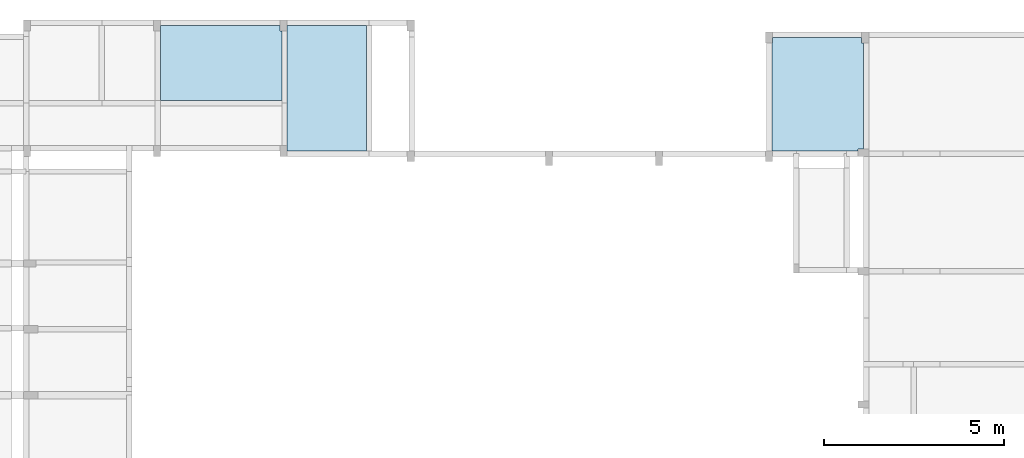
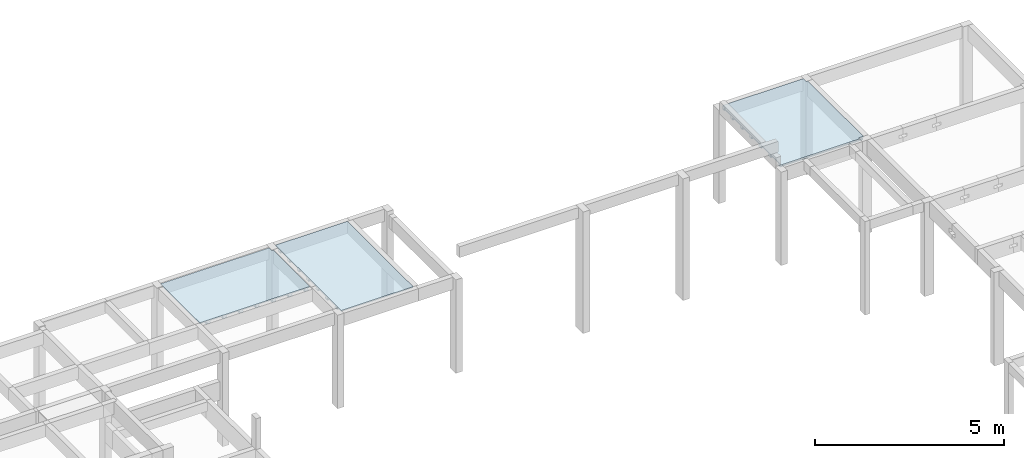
# One storey, part 18 of 21: 3 slabs.
"""IFC4 building model written with IfcOpenShell, lengths in centimetres."""

from ifc_helpers import new_model, si_unit, derived_unit, frame, origin_with_axes, place, context, project, spatial, polyline, outline, extrude, faceted_brep, material, element, save


model = new_model("IFC4")

# Units and contexts
model_context = context("Model", 3, precision=1e-05, world=origin_with_axes(), identifier="Body")
ifc_project = project(units=[si_unit("LENGTHUNIT", "METRE", prefix="CENTI"), si_unit("VOLUMEUNIT", "CUBIC_METRE"), si_unit("AREAUNIT", "SQUARE_METRE"), si_unit("POWERUNIT", "WATT"), si_unit("LUMINOUSFLUXUNIT", "LUMEN"), si_unit("ELECTRICCURRENTUNIT", "AMPERE"), si_unit("PRESSUREUNIT", "PASCAL", prefix="KILO"), si_unit("MASSUNIT", "GRAM", prefix="KILO"), si_unit("PLANEANGLEUNIT", "RADIAN"), derived_unit("VOLUMETRICFLOWRATEUNIT", [(si_unit("LENGTHUNIT", "METRE"), 3), (si_unit("TIMEUNIT", "SECOND"), -1)])], contexts=[model_context])

# Site, building, storey
site_placement = place(None, origin_with_axes())
site = spatial("IfcSite", under=ifc_project, at=site_placement)
building_placement = place(site_placement, frame((0.0, 0.0, -295.0)))
building = spatial("IfcBuilding", under=site, at=building_placement)
placement_1 = place(building_placement, origin_with_axes())
placement_2 = place(placement_1, frame((0.0, 0.0, 101.0), z_axis=(0.0, 0.0, 1.0), x_axis=(1.0, 0.0, 0.0)))
placement_3 = place(placement_2, frame((0.0, 0.0, 204.0), z_axis=(0.0, 0.0, 1.0), x_axis=(1.0, 0.0, 0.0)))
placement_4 = place(placement_3, frame((0.0, 0.0, 292.0), z_axis=(0.0, 0.0, 1.0), x_axis=(1.0, 0.0, 0.0)))
storey_placement = place(placement_4, frame((0.0, 0.0, 302.0), z_axis=(0.0, 0.0, 1.0), x_axis=(1.0, 0.0, 0.0)))
storey = spatial("IfcBuildingStorey", under=building, at=storey_placement, Name="PAVTO 02", CompositionType="ELEMENT", Elevation=604.0)

# Slabs
ifc_material = material(Name="Concreto")
slab_1_placement = place(storey_placement, frame((1722.6245, -5190.2945, -2.0), z_axis=(0.0, 0.0, 1.0), x_axis=(1.0, 0.0, 0.0)))
element("IfcSlab", 1, at=slab_1_placement, inside=storey, material=ifc_material, Name="L205", PredefinedType="FLOOR", context=model_context, shape_type="SolidModel", body=[
    extrude(outline(polyline([(168.224, 89.185), (163.224, 89.185), (163.225, 104.044), (-168.225, 104.045), (-168.224, -104.044), (168.224, -104.044), (168.224, 89.185), (168.224, 89.185)])), frame((0.0005, -0.0005, -4.0), z_axis=(0.0, 0.0, 1.0), x_axis=(1.0, 0.0, 0.0)), (0.0, 0.0, 1.0), 4.0),
    faceted_brep([(153.2255, -104.0445, -12.0), (153.2255, 104.044, -12.0), (163.2255, 104.044, -12.0), (163.2255, -104.0445, -12.0), (163.2255, -104.0445, -4.0), (163.2255, 104.044, -4.0), (153.2255, 104.044, -4.0), (153.2255, -104.0445, -4.0)], [[[0, 1, 2, 3]], [[4, 5, 6, 7]], [[4, 3, 5]], [[3, 2, 5]], [[5, 2, 6]], [[2, 1, 6]], [[6, 1, 7]], [[1, 0, 7]], [[7, 0, 4]], [[0, 3, 4]]]),
    faceted_brep([(151.7255, -104.0445, -12.0), (151.7255, 104.044, -12.0), (153.2255, 104.044, -12.0), (153.2255, -104.0445, -12.0), (153.2255, -104.0445, -9.0), (153.2255, 104.044, -9.0), (151.7255, 104.044, -9.0), (151.7255, -104.0445, -9.0)], [[[0, 1, 2, 3]], [[4, 5, 6, 7]], [[4, 3, 5]], [[3, 2, 5]], [[5, 2, 6]], [[2, 1, 6]], [[6, 1, 7]], [[1, 0, 7]], [[7, 0, 4]], [[0, 3, 4]]]),
    faceted_brep([(163.2255, -104.0445, -12.0), (163.2255, 104.044, -12.0), (164.7255, 89.1845, -12.0), (164.7255, -104.0445, -12.0), (164.7255, -104.0445, -9.0), (164.7255, 89.1845, -9.0), (163.2255, 104.044, -9.0), (163.2255, -104.0445, -9.0)], [[[0, 1, 2, 3]], [[4, 5, 6, 7]], [[4, 3, 5]], [[3, 2, 5]], [[5, 2, 6]], [[2, 1, 6]], [[6, 1, 7]], [[1, 0, 7]], [[7, 0, 4]], [[0, 3, 4]]]),
    faceted_brep([(103.2255, -104.0445, -12.0), (103.2255, 104.044, -12.0), (113.2255, 104.044, -12.0), (113.2255, -104.0445, -12.0), (113.2255, -104.0445, -4.0), (113.2255, 104.044, -4.0), (103.2255, 104.044, -4.0), (103.2255, -104.0445, -4.0)], [[[0, 1, 2, 3]], [[4, 5, 6, 7]], [[4, 3, 5]], [[3, 2, 5]], [[5, 2, 6]], [[2, 1, 6]], [[6, 1, 7]], [[1, 0, 7]], [[7, 0, 4]], [[0, 3, 4]]]),
    faceted_brep([(101.7255, -104.0445, -12.0), (101.7255, 104.044, -12.0), (103.2255, 104.044, -12.0), (103.2255, -104.0445, -12.0), (103.2255, -104.0445, -9.0), (103.2255, 104.044, -9.0), (101.7255, 104.044, -9.0), (101.7255, -104.0445, -9.0)], [[[0, 1, 2, 3]], [[4, 5, 6, 7]], [[4, 3, 5]], [[3, 2, 5]], [[5, 2, 6]], [[2, 1, 6]], [[6, 1, 7]], [[1, 0, 7]], [[7, 0, 4]], [[0, 3, 4]]]),
    faceted_brep([(113.2255, -104.0445, -12.0), (113.2255, 104.044, -12.0), (114.7255, 104.044, -12.0), (114.7255, -104.0445, -12.0), (114.7255, -104.0445, -9.0), (114.7255, 104.044, -9.0), (113.2255, 104.044, -9.0), (113.2255, -104.0445, -9.0)], [[[0, 1, 2, 3]], [[4, 5, 6, 7]], [[4, 3, 5]], [[3, 2, 5]], [[5, 2, 6]], [[2, 1, 6]], [[6, 1, 7]], [[1, 0, 7]], [[7, 0, 4]], [[0, 3, 4]]]),
    faceted_brep([(53.2255, -104.0445, -12.0), (53.2255, 104.044, -12.0), (63.2255, 104.044, -12.0), (63.2255, -104.0445, -12.0), (63.2255, -104.0445, -4.0), (63.2255, 104.044, -4.0), (53.2255, 104.044, -4.0), (53.2255, -104.0445, -4.0)], [[[0, 1, 2, 3]], [[4, 5, 6, 7]], [[4, 3, 5]], [[3, 2, 5]], [[5, 2, 6]], [[2, 1, 6]], [[6, 1, 7]], [[1, 0, 7]], [[7, 0, 4]], [[0, 3, 4]]]),
    faceted_brep([(51.7255, -104.0445, -12.0), (51.7255, 104.044, -12.0), (53.2255, 104.044, -12.0), (53.2255, -104.0445, -12.0), (53.2255, -104.0445, -9.0), (53.2255, 104.044, -9.0), (51.7255, 104.044, -9.0), (51.7255, -104.0445, -9.0)], [[[0, 1, 2, 3]], [[4, 5, 6, 7]], [[4, 3, 5]], [[3, 2, 5]], [[5, 2, 6]], [[2, 1, 6]], [[6, 1, 7]], [[1, 0, 7]], [[7, 0, 4]], [[0, 3, 4]]]),
    faceted_brep([(63.2255, -104.0445, -12.0), (63.2255, 104.044, -12.0), (64.7255, 104.044, -12.0), (64.7255, -104.0445, -12.0), (64.7255, -104.0445, -9.0), (64.7255, 104.044, -9.0), (63.2255, 104.044, -9.0), (63.2255, -104.0445, -9.0)], [[[0, 1, 2, 3]], [[4, 5, 6, 7]], [[4, 3, 5]], [[3, 2, 5]], [[5, 2, 6]], [[2, 1, 6]], [[6, 1, 7]], [[1, 0, 7]], [[7, 0, 4]], [[0, 3, 4]]]),
    faceted_brep([(3.2255, -104.0445, -12.0), (3.2255, 104.044, -12.0), (13.2255, 104.044, -12.0), (13.2255, -104.0445, -12.0), (13.2255, -104.0445, -4.0), (13.2255, 104.044, -4.0), (3.2255, 104.044, -4.0), (3.2255, -104.0445, -4.0)], [[[0, 1, 2, 3]], [[4, 5, 6, 7]], [[4, 3, 5]], [[3, 2, 5]], [[5, 2, 6]], [[2, 1, 6]], [[6, 1, 7]], [[1, 0, 7]], [[7, 0, 4]], [[0, 3, 4]]]),
    faceted_brep([(1.7255, -104.0445, -12.0), (1.7255, 104.044, -12.0), (3.2255, 104.044, -12.0), (3.2255, -104.0445, -12.0), (3.2255, -104.0445, -9.0), (3.2255, 104.044, -9.0), (1.7255, 104.044, -9.0), (1.7255, -104.0445, -9.0)], [[[0, 1, 2, 3]], [[4, 5, 6, 7]], [[4, 3, 5]], [[3, 2, 5]], [[5, 2, 6]], [[2, 1, 6]], [[6, 1, 7]], [[1, 0, 7]], [[7, 0, 4]], [[0, 3, 4]]]),
    faceted_brep([(13.2255, -104.0445, -12.0), (13.2255, 104.044, -12.0), (14.7255, 104.044, -12.0), (14.7255, -104.0445, -12.0), (14.7255, -104.0445, -9.0), (14.7255, 104.044, -9.0), (13.2255, 104.044, -9.0), (13.2255, -104.0445, -9.0)], [[[0, 1, 2, 3]], [[4, 5, 6, 7]], [[4, 3, 5]], [[3, 2, 5]], [[5, 2, 6]], [[2, 1, 6]], [[6, 1, 7]], [[1, 0, 7]], [[7, 0, 4]], [[0, 3, 4]]]),
    faceted_brep([(-46.7745, -104.0445, -12.0), (-46.7745, 104.044, -12.0), (-36.7745, 104.044, -12.0), (-36.7745, -104.0445, -12.0), (-36.7745, -104.0445, -4.0), (-36.7745, 104.044, -4.0), (-46.7745, 104.044, -4.0), (-46.7745, -104.0445, -4.0)], [[[0, 1, 2, 3]], [[4, 5, 6, 7]], [[4, 3, 5]], [[3, 2, 5]], [[5, 2, 6]], [[2, 1, 6]], [[6, 1, 7]], [[1, 0, 7]], [[7, 0, 4]], [[0, 3, 4]]]),
    faceted_brep([(-48.2745, -104.0445, -12.0), (-48.2745, 104.044, -12.0), (-46.7745, 104.044, -12.0), (-46.7745, -104.0445, -12.0), (-46.7745, -104.0445, -9.0), (-46.7745, 104.044, -9.0), (-48.2745, 104.044, -9.0), (-48.2745, -104.0445, -9.0)], [[[0, 1, 2, 3]], [[4, 5, 6, 7]], [[4, 3, 5]], [[3, 2, 5]], [[5, 2, 6]], [[2, 1, 6]], [[6, 1, 7]], [[1, 0, 7]], [[7, 0, 4]], [[0, 3, 4]]]),
    faceted_brep([(-36.7745, -104.0445, -12.0), (-36.7745, 104.044, -12.0), (-35.2745, 104.044, -12.0), (-35.2745, -104.0445, -12.0), (-35.2745, -104.0445, -9.0), (-35.2745, 104.044, -9.0), (-36.7745, 104.044, -9.0), (-36.7745, -104.0445, -9.0)], [[[0, 1, 2, 3]], [[4, 5, 6, 7]], [[4, 3, 5]], [[3, 2, 5]], [[5, 2, 6]], [[2, 1, 6]], [[6, 1, 7]], [[1, 0, 7]], [[7, 0, 4]], [[0, 3, 4]]]),
    faceted_brep([(-96.7745, -104.0445, -12.0), (-96.7745, 104.044, -12.0), (-86.7745, 104.044, -12.0), (-86.7745, -104.0445, -12.0), (-86.7745, -104.0445, -4.0), (-86.7745, 104.044, -4.0), (-96.7745, 104.044, -4.0), (-96.7745, -104.0445, -4.0)], [[[0, 1, 2, 3]], [[4, 5, 6, 7]], [[4, 3, 5]], [[3, 2, 5]], [[5, 2, 6]], [[2, 1, 6]], [[6, 1, 7]], [[1, 0, 7]], [[7, 0, 4]], [[0, 3, 4]]]),
    faceted_brep([(-98.2745, -104.0445, -12.0), (-98.2745, 104.044, -12.0), (-96.7745, 104.044, -12.0), (-96.7745, -104.0445, -12.0), (-96.7745, -104.0445, -9.0), (-96.7745, 104.044, -9.0), (-98.2745, 104.044, -9.0), (-98.2745, -104.0445, -9.0)], [[[0, 1, 2, 3]], [[4, 5, 6, 7]], [[4, 3, 5]], [[3, 2, 5]], [[5, 2, 6]], [[2, 1, 6]], [[6, 1, 7]], [[1, 0, 7]], [[7, 0, 4]], [[0, 3, 4]]]),
    faceted_brep([(-86.7745, -104.0445, -12.0), (-86.7745, 104.044, -12.0), (-85.2745, 104.044, -12.0), (-85.2745, -104.0445, -12.0), (-85.2745, -104.0445, -9.0), (-85.2745, 104.044, -9.0), (-86.7745, 104.044, -9.0), (-86.7745, -104.0445, -9.0)], [[[0, 1, 2, 3]], [[4, 5, 6, 7]], [[4, 3, 5]], [[3, 2, 5]], [[5, 2, 6]], [[2, 1, 6]], [[6, 1, 7]], [[1, 0, 7]], [[7, 0, 4]], [[0, 3, 4]]]),
    faceted_brep([(-146.7745, -104.0445, -12.0), (-146.7745, 104.044, -12.0), (-136.7745, 104.044, -12.0), (-136.7745, -104.0445, -12.0), (-136.7745, -104.0445, -4.0), (-136.7745, 104.044, -4.0), (-146.7745, 104.044, -4.0), (-146.7745, -104.0445, -4.0)], [[[0, 1, 2, 3]], [[4, 5, 6, 7]], [[4, 3, 5]], [[3, 2, 5]], [[5, 2, 6]], [[2, 1, 6]], [[6, 1, 7]], [[1, 0, 7]], [[7, 0, 4]], [[0, 3, 4]]]),
    faceted_brep([(-148.2745, -104.0445, -12.0), (-148.2745, 104.044, -12.0), (-146.7745, 104.044, -12.0), (-146.7745, -104.0445, -12.0), (-146.7745, -104.0445, -9.0), (-146.7745, 104.044, -9.0), (-148.2745, 104.044, -9.0), (-148.2745, -104.0445, -9.0)], [[[0, 1, 2, 3]], [[4, 5, 6, 7]], [[4, 3, 5]], [[3, 2, 5]], [[5, 2, 6]], [[2, 1, 6]], [[6, 1, 7]], [[1, 0, 7]], [[7, 0, 4]], [[0, 3, 4]]]),
    faceted_brep([(-136.7745, -104.0445, -12.0), (-136.7745, 104.044, -12.0), (-135.2745, 104.044, -12.0), (-135.2745, -104.0445, -12.0), (-135.2745, -104.0445, -9.0), (-135.2745, 104.044, -9.0), (-136.7745, 104.044, -9.0), (-136.7745, -104.0445, -9.0)], [[[0, 1, 2, 3]], [[4, 5, 6, 7]], [[4, 3, 5]], [[3, 2, 5]], [[5, 2, 6]], [[2, 1, 6]], [[6, 1, 7]], [[1, 0, 7]], [[7, 0, 4]], [[0, 3, 4]]]),
])
slab_2_placement = place(storey_placement, frame((2015.8495, -5260.435, 0.0), z_axis=(0.0, 0.0, 1.0), x_axis=(1.0, 0.0, 0.0)))
element("IfcSlab", 2, at=slab_2_placement, inside=storey, material=ifc_material, Name="L206", PredefinedType="FLOOR", context=model_context, shape_type="SolidModel", body=[
    extrude(outline(polyline([(109.999, 174.185), (-110.0, 174.185), (-110.0, -174.184), (109.999, -174.185), (109.999, 174.185), (109.999, 174.185)])), frame((0.0005, 0.0, -4.0), z_axis=(0.0, 0.0, 1.0), x_axis=(1.0, 0.0, 0.0)), (0.0, 0.0, 1.0), 4.0),
    faceted_brep([(-109.9995, -140.0, -12.0), (109.9995, -140.0, -12.0), (109.9995, -150.0, -12.0), (-109.9995, -150.0, -12.0), (-109.9995, -150.0, -4.0), (109.9995, -150.0, -4.0), (109.9995, -140.0, -4.0), (-109.9995, -140.0, -4.0)], [[[0, 1, 2, 3]], [[4, 5, 6, 7]], [[4, 3, 5]], [[3, 2, 5]], [[5, 2, 6]], [[2, 1, 6]], [[6, 1, 7]], [[1, 0, 7]], [[7, 0, 4]], [[0, 3, 4]]]),
    faceted_brep([(-109.9995, -138.5, -12.0), (109.9995, -138.5, -12.0), (109.9995, -140.0, -12.0), (-109.9995, -140.0, -12.0), (-109.9995, -140.0, -9.0), (109.9995, -140.0, -9.0), (109.9995, -138.5, -9.0), (-109.9995, -138.5, -9.0)], [[[0, 1, 2, 3]], [[4, 5, 6, 7]], [[4, 3, 5]], [[3, 2, 5]], [[5, 2, 6]], [[2, 1, 6]], [[6, 1, 7]], [[1, 0, 7]], [[7, 0, 4]], [[0, 3, 4]]]),
    faceted_brep([(-109.9995, -150.0, -12.0), (109.9995, -150.0, -12.0), (109.9995, -151.5, -12.0), (-109.9995, -151.5, -12.0), (-109.9995, -151.5, -9.0), (109.9995, -151.5, -9.0), (109.9995, -150.0, -9.0), (-109.9995, -150.0, -9.0)], [[[0, 1, 2, 3]], [[4, 5, 6, 7]], [[4, 3, 5]], [[3, 2, 5]], [[5, 2, 6]], [[2, 1, 6]], [[6, 1, 7]], [[1, 0, 7]], [[7, 0, 4]], [[0, 3, 4]]]),
    faceted_brep([(-109.9995, -90.0, -12.0), (109.9995, -90.0, -12.0), (109.9995, -100.0, -12.0), (-109.9995, -100.0, -12.0), (-109.9995, -100.0, -4.0), (109.9995, -100.0, -4.0), (109.9995, -90.0, -4.0), (-109.9995, -90.0, -4.0)], [[[0, 1, 2, 3]], [[4, 5, 6, 7]], [[4, 3, 5]], [[3, 2, 5]], [[5, 2, 6]], [[2, 1, 6]], [[6, 1, 7]], [[1, 0, 7]], [[7, 0, 4]], [[0, 3, 4]]]),
    faceted_brep([(-109.9995, -88.5, -12.0), (109.9995, -88.5, -12.0), (109.9995, -90.0, -12.0), (-109.9995, -90.0, -12.0), (-109.9995, -90.0, -9.0), (109.9995, -90.0, -9.0), (109.9995, -88.5, -9.0), (-109.9995, -88.5, -9.0)], [[[0, 1, 2, 3]], [[4, 5, 6, 7]], [[4, 3, 5]], [[3, 2, 5]], [[5, 2, 6]], [[2, 1, 6]], [[6, 1, 7]], [[1, 0, 7]], [[7, 0, 4]], [[0, 3, 4]]]),
    faceted_brep([(-109.9995, -100.0, -12.0), (109.9995, -100.0, -12.0), (109.9995, -101.5, -12.0), (-109.9995, -101.5, -12.0), (-109.9995, -101.5, -9.0), (109.9995, -101.5, -9.0), (109.9995, -100.0, -9.0), (-109.9995, -100.0, -9.0)], [[[0, 1, 2, 3]], [[4, 5, 6, 7]], [[4, 3, 5]], [[3, 2, 5]], [[5, 2, 6]], [[2, 1, 6]], [[6, 1, 7]], [[1, 0, 7]], [[7, 0, 4]], [[0, 3, 4]]]),
    faceted_brep([(-109.9995, -40.0, -12.0), (109.9995, -40.0, -12.0), (109.9995, -50.0, -12.0), (-109.9995, -50.0, -12.0), (-109.9995, -50.0, -4.0), (109.9995, -50.0, -4.0), (109.9995, -40.0, -4.0), (-109.9995, -40.0, -4.0)], [[[0, 1, 2, 3]], [[4, 5, 6, 7]], [[4, 3, 5]], [[3, 2, 5]], [[5, 2, 6]], [[2, 1, 6]], [[6, 1, 7]], [[1, 0, 7]], [[7, 0, 4]], [[0, 3, 4]]]),
    faceted_brep([(-109.9995, -38.5, -12.0), (109.9995, -38.5, -12.0), (109.9995, -40.0, -12.0), (-109.9995, -40.0, -12.0), (-109.9995, -40.0, -9.0), (109.9995, -40.0, -9.0), (109.9995, -38.5, -9.0), (-109.9995, -38.5, -9.0)], [[[0, 1, 2, 3]], [[4, 5, 6, 7]], [[4, 3, 5]], [[3, 2, 5]], [[5, 2, 6]], [[2, 1, 6]], [[6, 1, 7]], [[1, 0, 7]], [[7, 0, 4]], [[0, 3, 4]]]),
    faceted_brep([(-109.9995, -50.0, -12.0), (109.9995, -50.0, -12.0), (109.9995, -51.5, -12.0), (-109.9995, -51.5, -12.0), (-109.9995, -51.5, -9.0), (109.9995, -51.5, -9.0), (109.9995, -50.0, -9.0), (-109.9995, -50.0, -9.0)], [[[0, 1, 2, 3]], [[4, 5, 6, 7]], [[4, 3, 5]], [[3, 2, 5]], [[5, 2, 6]], [[2, 1, 6]], [[6, 1, 7]], [[1, 0, 7]], [[7, 0, 4]], [[0, 3, 4]]]),
    faceted_brep([(-109.9995, 10.0, -12.0), (109.9995, 10.0, -12.0), (109.9995, 0.0, -12.0), (-109.9995, 0.0, -12.0), (-109.9995, 0.0, -4.0), (109.9995, 0.0, -4.0), (109.9995, 10.0, -4.0), (-109.9995, 10.0, -4.0)], [[[0, 1, 2, 3]], [[4, 5, 6, 7]], [[4, 3, 5]], [[3, 2, 5]], [[5, 2, 6]], [[2, 1, 6]], [[6, 1, 7]], [[1, 0, 7]], [[7, 0, 4]], [[0, 3, 4]]]),
    faceted_brep([(-109.9995, 11.5, -12.0), (109.9995, 11.5, -12.0), (109.9995, 10.0, -12.0), (-109.9995, 10.0, -12.0), (-109.9995, 10.0, -9.0), (109.9995, 10.0, -9.0), (109.9995, 11.5, -9.0), (-109.9995, 11.5, -9.0)], [[[0, 1, 2, 3]], [[4, 5, 6, 7]], [[4, 3, 5]], [[3, 2, 5]], [[5, 2, 6]], [[2, 1, 6]], [[6, 1, 7]], [[1, 0, 7]], [[7, 0, 4]], [[0, 3, 4]]]),
    faceted_brep([(-109.9995, 0.0, -12.0), (109.9995, 0.0, -12.0), (109.9995, -1.5, -12.0), (-109.9995, -1.5, -12.0), (-109.9995, -1.5, -9.0), (109.9995, -1.5, -9.0), (109.9995, 0.0, -9.0), (-109.9995, 0.0, -9.0)], [[[0, 1, 2, 3]], [[4, 5, 6, 7]], [[4, 3, 5]], [[3, 2, 5]], [[5, 2, 6]], [[2, 1, 6]], [[6, 1, 7]], [[1, 0, 7]], [[7, 0, 4]], [[0, 3, 4]]]),
    faceted_brep([(-109.9995, 60.0, -12.0), (109.9995, 60.0, -12.0), (109.9995, 50.0, -12.0), (-109.9995, 50.0, -12.0), (-109.9995, 50.0, -4.0), (109.9995, 50.0, -4.0), (109.9995, 60.0, -4.0), (-109.9995, 60.0, -4.0)], [[[0, 1, 2, 3]], [[4, 5, 6, 7]], [[4, 3, 5]], [[3, 2, 5]], [[5, 2, 6]], [[2, 1, 6]], [[6, 1, 7]], [[1, 0, 7]], [[7, 0, 4]], [[0, 3, 4]]]),
    faceted_brep([(-109.9995, 61.5, -12.0), (109.9995, 61.5, -12.0), (109.9995, 60.0, -12.0), (-109.9995, 60.0, -12.0), (-109.9995, 60.0, -9.0), (109.9995, 60.0, -9.0), (109.9995, 61.5, -9.0), (-109.9995, 61.5, -9.0)], [[[0, 1, 2, 3]], [[4, 5, 6, 7]], [[4, 3, 5]], [[3, 2, 5]], [[5, 2, 6]], [[2, 1, 6]], [[6, 1, 7]], [[1, 0, 7]], [[7, 0, 4]], [[0, 3, 4]]]),
    faceted_brep([(-109.9995, 50.0, -12.0), (109.9995, 50.0, -12.0), (109.9995, 48.5, -12.0), (-109.9995, 48.5, -12.0), (-109.9995, 48.5, -9.0), (109.9995, 48.5, -9.0), (109.9995, 50.0, -9.0), (-109.9995, 50.0, -9.0)], [[[0, 1, 2, 3]], [[4, 5, 6, 7]], [[4, 3, 5]], [[3, 2, 5]], [[5, 2, 6]], [[2, 1, 6]], [[6, 1, 7]], [[1, 0, 7]], [[7, 0, 4]], [[0, 3, 4]]]),
    faceted_brep([(-109.9995, 110.0, -12.0), (109.9995, 110.0, -12.0), (109.9995, 100.0, -12.0), (-109.9995, 100.0, -12.0), (-109.9995, 100.0, -4.0), (109.9995, 100.0, -4.0), (109.9995, 110.0, -4.0), (-109.9995, 110.0, -4.0)], [[[0, 1, 2, 3]], [[4, 5, 6, 7]], [[4, 3, 5]], [[3, 2, 5]], [[5, 2, 6]], [[2, 1, 6]], [[6, 1, 7]], [[1, 0, 7]], [[7, 0, 4]], [[0, 3, 4]]]),
    faceted_brep([(-109.9995, 111.5, -12.0), (109.9995, 111.5, -12.0), (109.9995, 110.0, -12.0), (-109.9995, 110.0, -12.0), (-109.9995, 110.0, -9.0), (109.9995, 110.0, -9.0), (109.9995, 111.5, -9.0), (-109.9995, 111.5, -9.0)], [[[0, 1, 2, 3]], [[4, 5, 6, 7]], [[4, 3, 5]], [[3, 2, 5]], [[5, 2, 6]], [[2, 1, 6]], [[6, 1, 7]], [[1, 0, 7]], [[7, 0, 4]], [[0, 3, 4]]]),
    faceted_brep([(-109.9995, 100.0, -12.0), (109.9995, 100.0, -12.0), (109.9995, 98.5, -12.0), (-109.9995, 98.5, -12.0), (-109.9995, 98.5, -9.0), (109.9995, 98.5, -9.0), (109.9995, 100.0, -9.0), (-109.9995, 100.0, -9.0)], [[[0, 1, 2, 3]], [[4, 5, 6, 7]], [[4, 3, 5]], [[3, 2, 5]], [[5, 2, 6]], [[2, 1, 6]], [[6, 1, 7]], [[1, 0, 7]], [[7, 0, 4]], [[0, 3, 4]]]),
    faceted_brep([(-109.9995, 160.0, -12.0), (109.9995, 160.0, -12.0), (109.9995, 150.0, -12.0), (-109.9995, 150.0, -12.0), (-109.9995, 150.0, -4.0), (109.9995, 150.0, -4.0), (109.9995, 160.0, -4.0), (-109.9995, 160.0, -4.0)], [[[0, 1, 2, 3]], [[4, 5, 6, 7]], [[4, 3, 5]], [[3, 2, 5]], [[5, 2, 6]], [[2, 1, 6]], [[6, 1, 7]], [[1, 0, 7]], [[7, 0, 4]], [[0, 3, 4]]]),
    faceted_brep([(-109.9995, 161.5, -12.0), (109.9995, 161.5, -12.0), (109.9995, 160.0, -12.0), (-109.9995, 160.0, -12.0), (-109.9995, 160.0, -9.0), (109.9995, 160.0, -9.0), (109.9995, 161.5, -9.0), (-109.9995, 161.5, -9.0)], [[[0, 1, 2, 3]], [[4, 5, 6, 7]], [[4, 3, 5]], [[3, 2, 5]], [[5, 2, 6]], [[2, 1, 6]], [[6, 1, 7]], [[1, 0, 7]], [[7, 0, 4]], [[0, 3, 4]]]),
    faceted_brep([(-109.9995, 150.0, -12.0), (109.9995, 150.0, -12.0), (109.9995, 148.5, -12.0), (-109.9995, 148.5, -12.0), (-109.9995, 148.5, -9.0), (109.9995, 148.5, -9.0), (109.9995, 150.0, -9.0), (-109.9995, 150.0, -9.0)], [[[0, 1, 2, 3]], [[4, 5, 6, 7]], [[4, 3, 5]], [[3, 2, 5]], [[5, 2, 6]], [[2, 1, 6]], [[6, 1, 7]], [[1, 0, 7]], [[7, 0, 4]], [[0, 3, 4]]]),
])
slab_3_placement = place(storey_placement, frame((3378.48, -5277.085, 0.0), z_axis=(0.0, 0.0, 1.0), x_axis=(1.0, 0.0, 0.0)))
element("IfcSlab", 3, at=slab_3_placement, inside=storey, material=ifc_material, Name="L207", PredefinedType="FLOOR", context=model_context, shape_type="SolidModel", body=[
    extrude(outline(polyline([(112.23, -152.604), (127.25, -152.604), (127.249, 142.534), (122.25, 142.534), (122.25, 157.534), (-124.749, 157.534), (-124.749, 142.534), (-127.25, 142.534), (-127.249, -157.534), (112.229, -157.534), (112.23, -152.604), (112.23, -152.604)])), frame((0.0, 0.0, -4.0), z_axis=(0.0, 0.0, 1.0), x_axis=(1.0, 0.0, 0.0)), (0.0, 0.0, 1.0), 4.0),
    faceted_brep([(-127.2495, -140.0, -12.0), (127.2495, -140.0, -12.0), (127.2495, -150.0, -12.0), (-127.2495, -150.0, -12.0), (-127.2495, -150.0, -4.0), (127.2495, -150.0, -4.0), (127.2495, -140.0, -4.0), (-127.2495, -140.0, -4.0)], [[[0, 1, 2, 3]], [[4, 5, 6, 7]], [[4, 3, 5]], [[3, 2, 5]], [[5, 2, 6]], [[2, 1, 6]], [[6, 1, 7]], [[1, 0, 7]], [[7, 0, 4]], [[0, 3, 4]]]),
    faceted_brep([(-127.2495, -138.5, -12.0), (127.2495, -138.5, -12.0), (127.2495, -140.0, -12.0), (-127.2495, -140.0, -12.0), (-127.2495, -140.0, -9.0), (127.2495, -140.0, -9.0), (127.2495, -138.5, -9.0), (-127.2495, -138.5, -9.0)], [[[0, 1, 2, 3]], [[4, 5, 6, 7]], [[4, 3, 5]], [[3, 2, 5]], [[5, 2, 6]], [[2, 1, 6]], [[6, 1, 7]], [[1, 0, 7]], [[7, 0, 4]], [[0, 3, 4]]]),
    faceted_brep([(-127.2495, -150.0, -12.0), (127.2495, -150.0, -12.0), (127.2495, -151.5, -12.0), (-127.2495, -151.5, -12.0), (-127.2495, -151.5, -9.0), (127.2495, -151.5, -9.0), (127.2495, -150.0, -9.0), (-127.2495, -150.0, -9.0)], [[[0, 1, 2, 3]], [[4, 5, 6, 7]], [[4, 3, 5]], [[3, 2, 5]], [[5, 2, 6]], [[2, 1, 6]], [[6, 1, 7]], [[1, 0, 7]], [[7, 0, 4]], [[0, 3, 4]]]),
    faceted_brep([(-127.2495, -90.0, -12.0), (127.2495, -90.0, -12.0), (127.2495, -100.0, -12.0), (-127.2495, -100.0, -12.0), (-127.2495, -100.0, -4.0), (127.2495, -100.0, -4.0), (127.2495, -90.0, -4.0), (-127.2495, -90.0, -4.0)], [[[0, 1, 2, 3]], [[4, 5, 6, 7]], [[4, 3, 5]], [[3, 2, 5]], [[5, 2, 6]], [[2, 1, 6]], [[6, 1, 7]], [[1, 0, 7]], [[7, 0, 4]], [[0, 3, 4]]]),
    faceted_brep([(-127.2495, -88.5, -12.0), (127.2495, -88.5, -12.0), (127.2495, -90.0, -12.0), (-127.2495, -90.0, -12.0), (-127.2495, -90.0, -9.0), (127.2495, -90.0, -9.0), (127.2495, -88.5, -9.0), (-127.2495, -88.5, -9.0)], [[[0, 1, 2, 3]], [[4, 5, 6, 7]], [[4, 3, 5]], [[3, 2, 5]], [[5, 2, 6]], [[2, 1, 6]], [[6, 1, 7]], [[1, 0, 7]], [[7, 0, 4]], [[0, 3, 4]]]),
    faceted_brep([(-127.2495, -100.0, -12.0), (127.2495, -100.0, -12.0), (127.2495, -101.5, -12.0), (-127.2495, -101.5, -12.0), (-127.2495, -101.5, -9.0), (127.2495, -101.5, -9.0), (127.2495, -100.0, -9.0), (-127.2495, -100.0, -9.0)], [[[0, 1, 2, 3]], [[4, 5, 6, 7]], [[4, 3, 5]], [[3, 2, 5]], [[5, 2, 6]], [[2, 1, 6]], [[6, 1, 7]], [[1, 0, 7]], [[7, 0, 4]], [[0, 3, 4]]]),
    faceted_brep([(-127.2495, -40.0, -12.0), (127.2495, -40.0, -12.0), (127.2495, -50.0, -12.0), (-127.2495, -50.0, -12.0), (-127.2495, -50.0, -4.0), (127.2495, -50.0, -4.0), (127.2495, -40.0, -4.0), (-127.2495, -40.0, -4.0)], [[[0, 1, 2, 3]], [[4, 5, 6, 7]], [[4, 3, 5]], [[3, 2, 5]], [[5, 2, 6]], [[2, 1, 6]], [[6, 1, 7]], [[1, 0, 7]], [[7, 0, 4]], [[0, 3, 4]]]),
    faceted_brep([(-127.2495, -38.5, -12.0), (127.2495, -38.5, -12.0), (127.2495, -40.0, -12.0), (-127.2495, -40.0, -12.0), (-127.2495, -40.0, -9.0), (127.2495, -40.0, -9.0), (127.2495, -38.5, -9.0), (-127.2495, -38.5, -9.0)], [[[0, 1, 2, 3]], [[4, 5, 6, 7]], [[4, 3, 5]], [[3, 2, 5]], [[5, 2, 6]], [[2, 1, 6]], [[6, 1, 7]], [[1, 0, 7]], [[7, 0, 4]], [[0, 3, 4]]]),
    faceted_brep([(-127.2495, -50.0, -12.0), (127.2495, -50.0, -12.0), (127.2495, -51.5, -12.0), (-127.2495, -51.5, -12.0), (-127.2495, -51.5, -9.0), (127.2495, -51.5, -9.0), (127.2495, -50.0, -9.0), (-127.2495, -50.0, -9.0)], [[[0, 1, 2, 3]], [[4, 5, 6, 7]], [[4, 3, 5]], [[3, 2, 5]], [[5, 2, 6]], [[2, 1, 6]], [[6, 1, 7]], [[1, 0, 7]], [[7, 0, 4]], [[0, 3, 4]]]),
    faceted_brep([(-127.2495, 10.0, -12.0), (127.2495, 10.0, -12.0), (127.2495, 0.0, -12.0), (-127.2495, 0.0, -12.0), (-127.2495, 0.0, -4.0), (127.2495, 0.0, -4.0), (127.2495, 10.0, -4.0), (-127.2495, 10.0, -4.0)], [[[0, 1, 2, 3]], [[4, 5, 6, 7]], [[4, 3, 5]], [[3, 2, 5]], [[5, 2, 6]], [[2, 1, 6]], [[6, 1, 7]], [[1, 0, 7]], [[7, 0, 4]], [[0, 3, 4]]]),
    faceted_brep([(-127.2495, 11.5, -12.0), (127.2495, 11.5, -12.0), (127.2495, 10.0, -12.0), (-127.2495, 10.0, -12.0), (-127.2495, 10.0, -9.0), (127.2495, 10.0, -9.0), (127.2495, 11.5, -9.0), (-127.2495, 11.5, -9.0)], [[[0, 1, 2, 3]], [[4, 5, 6, 7]], [[4, 3, 5]], [[3, 2, 5]], [[5, 2, 6]], [[2, 1, 6]], [[6, 1, 7]], [[1, 0, 7]], [[7, 0, 4]], [[0, 3, 4]]]),
    faceted_brep([(-127.2495, 0.0, -12.0), (127.2495, 0.0, -12.0), (127.2495, -1.5, -12.0), (-127.2495, -1.5, -12.0), (-127.2495, -1.5, -9.0), (127.2495, -1.5, -9.0), (127.2495, 0.0, -9.0), (-127.2495, 0.0, -9.0)], [[[0, 1, 2, 3]], [[4, 5, 6, 7]], [[4, 3, 5]], [[3, 2, 5]], [[5, 2, 6]], [[2, 1, 6]], [[6, 1, 7]], [[1, 0, 7]], [[7, 0, 4]], [[0, 3, 4]]]),
    faceted_brep([(-127.2495, 60.0, -12.0), (127.2495, 60.0, -12.0), (127.2495, 50.0, -12.0), (-127.2495, 50.0, -12.0), (-127.2495, 50.0, -4.0), (127.2495, 50.0, -4.0), (127.2495, 60.0, -4.0), (-127.2495, 60.0, -4.0)], [[[0, 1, 2, 3]], [[4, 5, 6, 7]], [[4, 3, 5]], [[3, 2, 5]], [[5, 2, 6]], [[2, 1, 6]], [[6, 1, 7]], [[1, 0, 7]], [[7, 0, 4]], [[0, 3, 4]]]),
    faceted_brep([(-127.2495, 61.5, -12.0), (127.2495, 61.5, -12.0), (127.2495, 60.0, -12.0), (-127.2495, 60.0, -12.0), (-127.2495, 60.0, -9.0), (127.2495, 60.0, -9.0), (127.2495, 61.5, -9.0), (-127.2495, 61.5, -9.0)], [[[0, 1, 2, 3]], [[4, 5, 6, 7]], [[4, 3, 5]], [[3, 2, 5]], [[5, 2, 6]], [[2, 1, 6]], [[6, 1, 7]], [[1, 0, 7]], [[7, 0, 4]], [[0, 3, 4]]]),
    faceted_brep([(-127.2495, 50.0, -12.0), (127.2495, 50.0, -12.0), (127.2495, 48.5, -12.0), (-127.2495, 48.5, -12.0), (-127.2495, 48.5, -9.0), (127.2495, 48.5, -9.0), (127.2495, 50.0, -9.0), (-127.2495, 50.0, -9.0)], [[[0, 1, 2, 3]], [[4, 5, 6, 7]], [[4, 3, 5]], [[3, 2, 5]], [[5, 2, 6]], [[2, 1, 6]], [[6, 1, 7]], [[1, 0, 7]], [[7, 0, 4]], [[0, 3, 4]]]),
    faceted_brep([(-127.2495, 110.0, -12.0), (127.2495, 110.0, -12.0), (127.2495, 100.0, -12.0), (-127.2495, 100.0, -12.0), (-127.2495, 100.0, -4.0), (127.2495, 100.0, -4.0), (127.2495, 110.0, -4.0), (-127.2495, 110.0, -4.0)], [[[0, 1, 2, 3]], [[4, 5, 6, 7]], [[4, 3, 5]], [[3, 2, 5]], [[5, 2, 6]], [[2, 1, 6]], [[6, 1, 7]], [[1, 0, 7]], [[7, 0, 4]], [[0, 3, 4]]]),
    faceted_brep([(-127.2495, 111.5, -12.0), (127.2495, 111.5, -12.0), (127.2495, 110.0, -12.0), (-127.2495, 110.0, -12.0), (-127.2495, 110.0, -9.0), (127.2495, 110.0, -9.0), (127.2495, 111.5, -9.0), (-127.2495, 111.5, -9.0)], [[[0, 1, 2, 3]], [[4, 5, 6, 7]], [[4, 3, 5]], [[3, 2, 5]], [[5, 2, 6]], [[2, 1, 6]], [[6, 1, 7]], [[1, 0, 7]], [[7, 0, 4]], [[0, 3, 4]]]),
    faceted_brep([(-127.2495, 100.0, -12.0), (127.2495, 100.0, -12.0), (127.2495, 98.5, -12.0), (-127.2495, 98.5, -12.0), (-127.2495, 98.5, -9.0), (127.2495, 98.5, -9.0), (127.2495, 100.0, -9.0), (-127.2495, 100.0, -9.0)], [[[0, 1, 2, 3]], [[4, 5, 6, 7]], [[4, 3, 5]], [[3, 2, 5]], [[5, 2, 6]], [[2, 1, 6]], [[6, 1, 7]], [[1, 0, 7]], [[7, 0, 4]], [[0, 3, 4]]]),
    faceted_brep([(-124.749, 157.534, -12.0), (122.25, 157.534, -12.0), (122.25, 150.0, -12.0), (-124.749, 150.0, -12.0), (-124.749, 150.0, -4.0), (122.25, 150.0, -4.0), (122.25, 157.534, -4.0), (-124.749, 157.534, -4.0)], [[[0, 1, 2, 3]], [[4, 5, 6, 7]], [[4, 3, 5]], [[3, 2, 5]], [[5, 2, 6]], [[2, 1, 6]], [[6, 1, 7]], [[1, 0, 7]], [[7, 0, 4]], [[0, 3, 4]]]),
    faceted_brep([(-124.749, 150.0, -12.0), (122.25, 150.0, -12.0), (122.25, 148.5, -12.0), (-124.749, 148.5, -12.0), (-124.749, 148.5, -9.0), (122.25, 148.5, -9.0), (122.25, 150.0, -9.0), (-124.749, 150.0, -9.0)], [[[0, 1, 2, 3]], [[4, 5, 6, 7]], [[4, 3, 5]], [[3, 2, 5]], [[5, 2, 6]], [[2, 1, 6]], [[6, 1, 7]], [[1, 0, 7]], [[7, 0, 4]], [[0, 3, 4]]]),
])

save(model, "model.ifc")
